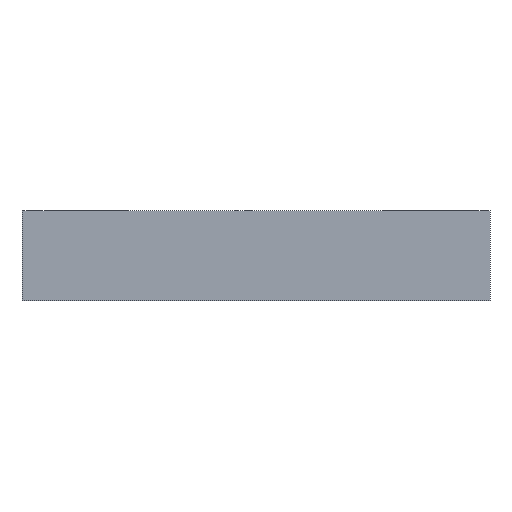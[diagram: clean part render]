
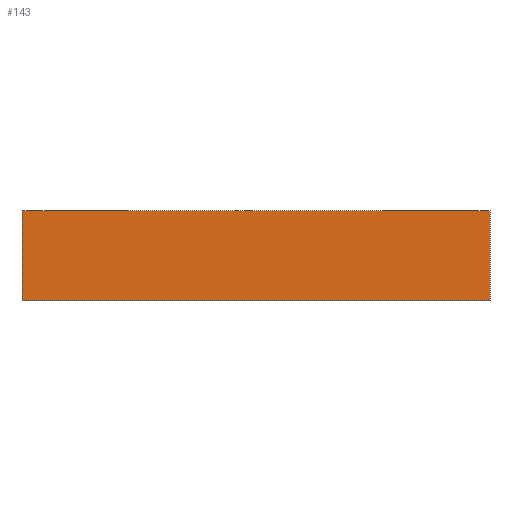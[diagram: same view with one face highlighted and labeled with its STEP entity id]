
A CAD part, front view. The second image highlights one B-rep face of the part: STEP entity #143.
In plain terms, the highlighted planar face has unit normal (0, -1, 0).
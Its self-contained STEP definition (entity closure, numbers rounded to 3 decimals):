
#19=PLANE('',#169);
#27=FACE_OUTER_BOUND('',#35,.T.);
#35=EDGE_LOOP('',(#125,#126,#127,#128));
#40=LINE('',#225,#54);
#44=LINE('',#234,#58);
#48=LINE('',#244,#62);
#50=LINE('',#248,#64);
#54=VECTOR('',#184,10.);
#58=VECTOR('',#192,10.);
#62=VECTOR('',#202,10.);
#64=VECTOR('',#208,10.);
#73=VERTEX_POINT('',#222);
#74=VERTEX_POINT('',#224);
#77=VERTEX_POINT('',#232);
#80=VERTEX_POINT('',#242);
#86=EDGE_CURVE('',#74,#73,#40,.T.);
#91=EDGE_CURVE('',#77,#73,#44,.T.);
#96=EDGE_CURVE('',#80,#77,#48,.T.);
#98=EDGE_CURVE('',#80,#74,#50,.T.);
#125=ORIENTED_EDGE('',*,*,#98,.T.);
#126=ORIENTED_EDGE('',*,*,#86,.T.);
#127=ORIENTED_EDGE('',*,*,#91,.F.);
#128=ORIENTED_EDGE('',*,*,#96,.F.);
#143=ADVANCED_FACE('',(#27),#19,.T.);
#169=AXIS2_PLACEMENT_3D('',#247,#206,#207);
#184=DIRECTION('',(0.,0.,1.));
#192=DIRECTION('',(1.,0.,0.));
#202=DIRECTION('',(0.,0.,1.));
#206=DIRECTION('center_axis',(0.,-1.,0.));
#207=DIRECTION('ref_axis',(1.,0.,0.));
#208=DIRECTION('',(1.,0.,0.));
#222=CARTESIAN_POINT('',(13.,0.,2.5));
#224=CARTESIAN_POINT('',(13.,0.,0.));
#225=CARTESIAN_POINT('',(13.,0.,0.));
#232=CARTESIAN_POINT('',(0.,0.,2.5));
#234=CARTESIAN_POINT('',(0.,0.,2.5));
#242=CARTESIAN_POINT('',(0.,0.,0.));
#244=CARTESIAN_POINT('',(0.,0.,0.));
#247=CARTESIAN_POINT('Origin',(0.,0.,0.));
#248=CARTESIAN_POINT('',(0.,0.,0.));
